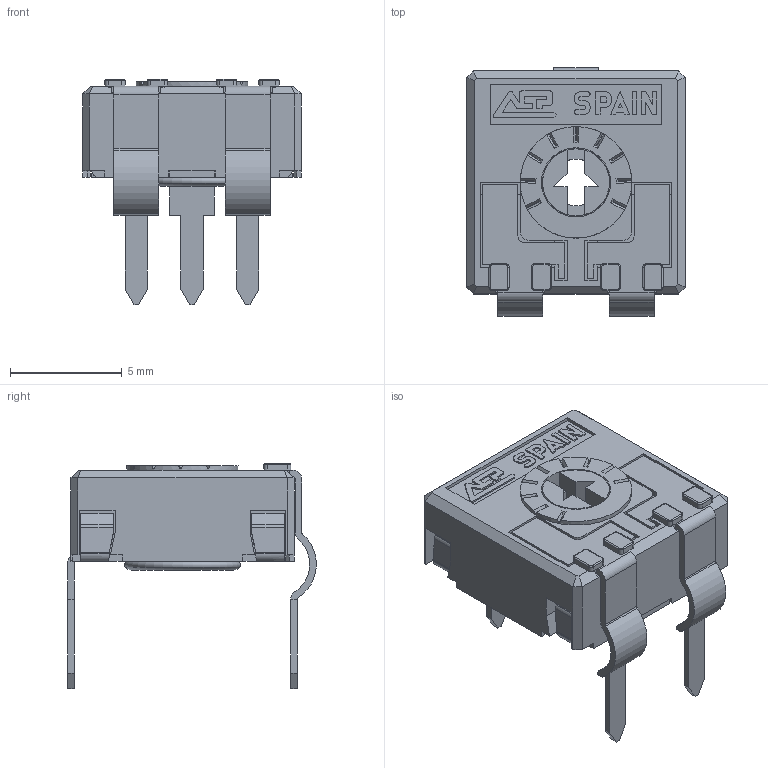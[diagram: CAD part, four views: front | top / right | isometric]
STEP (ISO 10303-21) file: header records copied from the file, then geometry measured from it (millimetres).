
FILE_DESCRIPTION(/* description */ (''),/* implementation_level */ '2;1');
FILE_NAME(/* name */ '\\SERVERACP\intercambio\Ignacio Santa Cecilia\Nueva WEB 2025\CA9 - CE9\CA9PVR10.stp',/* time_stamp */ '2025-06-03T15:31:56+02:00',/* author */ ('CEM'),/* organization */ (''),/* preprocessor_version */ 'ST-DEVELOPER v17',/* originating_system */ 'Autodesk Inventor 2018',/* authorisation */ '');
FILE_SCHEMA (('AUTOMOTIVE_DESIGN { 1 0 10303 214 3 1 1 }'));
Length unit declared in the file: millimetre
Products named in the file (1): CA9PVR10
Bounding box: 9.8 x 11.15 x 10.1 mm (x, y, z)
Volume: 250.3 mm3; surface area: 872.8 mm2
Topology: 2 solids, 2 shells, 620 faces, 1766 edges, 1131 vertices
Faces by surface type: plane 484, cylinder 101, torus 19, cone 16
Full cylindrical faces by diameter (mm): 3 x1, 3.1 x1, 4 x1, 4.8 x1, 5 x1
Entity records: 20194 total; most frequent: CARTESIAN_POINT 3570, ORIENTED_EDGE 3532, DIRECTION 3306, EDGE_CURVE 1766, LINE 1416, VECTOR 1416, VERTEX_POINT 1131, AXIS2_PLACEMENT_3D 945
